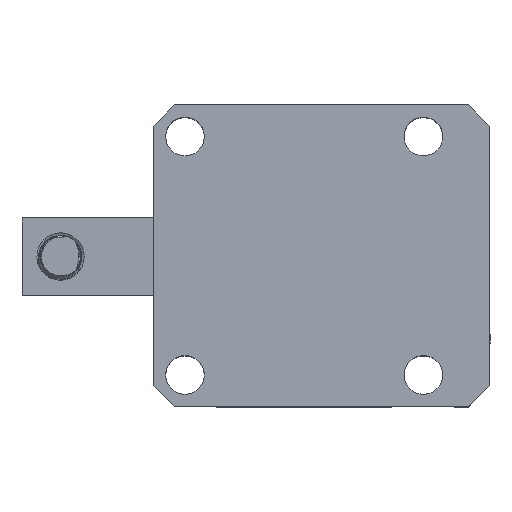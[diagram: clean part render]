
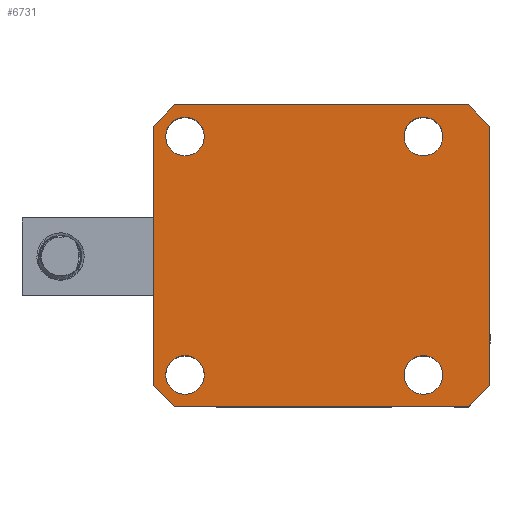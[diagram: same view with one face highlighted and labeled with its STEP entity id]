
A CAD part, top view. The second image highlights one B-rep face of the part: STEP entity #6731.
In plain terms, the highlighted planar face has unit normal (0, 0, 1).
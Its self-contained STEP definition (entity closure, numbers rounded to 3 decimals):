
#428=FACE_BOUND('',#998,.T.);
#429=FACE_BOUND('',#999,.T.);
#430=FACE_BOUND('',#1000,.T.);
#431=FACE_BOUND('',#1001,.T.);
#478=PLANE('',#7387);
#642=FACE_OUTER_BOUND('',#997,.T.);
#997=EDGE_LOOP('',(#5071,#5072,#5073,#5074,#5075,#5076,#5077,#5078));
#998=EDGE_LOOP('',(#5079));
#999=EDGE_LOOP('',(#5080));
#1000=EDGE_LOOP('',(#5081));
#1001=EDGE_LOOP('',(#5082));
#1881=LINE('',#11589,#2314);
#1882=LINE('',#11591,#2315);
#1883=LINE('',#11593,#2316);
#1884=LINE('',#11595,#2317);
#1885=LINE('',#11597,#2318);
#1886=LINE('',#11599,#2319);
#1887=LINE('',#11601,#2320);
#1888=LINE('',#11602,#2321);
#2314=VECTOR('',#8028,1000.);
#2315=VECTOR('',#8029,1000.);
#2316=VECTOR('',#8030,1000.);
#2317=VECTOR('',#8031,1000.);
#2318=VECTOR('',#8032,1000.);
#2319=VECTOR('',#8033,1000.);
#2320=VECTOR('',#8034,1000.);
#2321=VECTOR('',#8035,1000.);
#2717=CIRCLE('',#7349,5.5);
#2719=CIRCLE('',#7352,5.5);
#2721=CIRCLE('',#7355,5.5);
#2723=CIRCLE('',#7358,5.5);
#2930=VERTEX_POINT('',#10750);
#2932=VERTEX_POINT('',#10756);
#2934=VERTEX_POINT('',#10762);
#2936=VERTEX_POINT('',#10768);
#2980=VERTEX_POINT('',#11587);
#2981=VERTEX_POINT('',#11588);
#2982=VERTEX_POINT('',#11590);
#2983=VERTEX_POINT('',#11592);
#2984=VERTEX_POINT('',#11594);
#2985=VERTEX_POINT('',#11596);
#2986=VERTEX_POINT('',#11598);
#2987=VERTEX_POINT('',#11600);
#3846=EDGE_CURVE('',#2930,#2930,#2717,.T.);
#3849=EDGE_CURVE('',#2932,#2932,#2719,.T.);
#3852=EDGE_CURVE('',#2934,#2934,#2721,.T.);
#3855=EDGE_CURVE('',#2936,#2936,#2723,.T.);
#3927=EDGE_CURVE('',#2980,#2981,#1881,.T.);
#3928=EDGE_CURVE('',#2981,#2982,#1882,.T.);
#3929=EDGE_CURVE('',#2982,#2983,#1883,.T.);
#3930=EDGE_CURVE('',#2983,#2984,#1884,.T.);
#3931=EDGE_CURVE('',#2984,#2985,#1885,.T.);
#3932=EDGE_CURVE('',#2985,#2986,#1886,.T.);
#3933=EDGE_CURVE('',#2986,#2987,#1887,.T.);
#3934=EDGE_CURVE('',#2987,#2980,#1888,.T.);
#5071=ORIENTED_EDGE('',*,*,#3927,.T.);
#5072=ORIENTED_EDGE('',*,*,#3928,.T.);
#5073=ORIENTED_EDGE('',*,*,#3929,.T.);
#5074=ORIENTED_EDGE('',*,*,#3930,.T.);
#5075=ORIENTED_EDGE('',*,*,#3931,.T.);
#5076=ORIENTED_EDGE('',*,*,#3932,.T.);
#5077=ORIENTED_EDGE('',*,*,#3933,.T.);
#5078=ORIENTED_EDGE('',*,*,#3934,.T.);
#5079=ORIENTED_EDGE('',*,*,#3846,.T.);
#5080=ORIENTED_EDGE('',*,*,#3849,.T.);
#5081=ORIENTED_EDGE('',*,*,#3852,.T.);
#5082=ORIENTED_EDGE('',*,*,#3855,.T.);
#6731=ADVANCED_FACE('',(#642,#428,#429,#430,#431),#478,.T.);
#7349=AXIS2_PLACEMENT_3D('',#10752,#7936,#7937);
#7352=AXIS2_PLACEMENT_3D('',#10758,#7943,#7944);
#7355=AXIS2_PLACEMENT_3D('',#10764,#7950,#7951);
#7358=AXIS2_PLACEMENT_3D('',#10770,#7957,#7958);
#7387=AXIS2_PLACEMENT_3D('',#11586,#8026,#8027);
#7936=DIRECTION('center_axis',(0.,0.,
-1.));
#7937=DIRECTION('ref_axis',(0.,-1.,0.));
#7943=DIRECTION('center_axis',(0.,0.,-1.));
#7944=DIRECTION('ref_axis',(0.,-1.,0.));
#7950=DIRECTION('center_axis',(0.,0.,-1.));
#7951=DIRECTION('ref_axis',(0.,-1.,0.));
#7957=DIRECTION('center_axis',(0.,0.,
-1.));
#7958=DIRECTION('ref_axis',(0.,-1.,0.));
#8026=DIRECTION('center_axis',(0.,0.,1.));
#8027=DIRECTION('ref_axis',(1.,0.,0.));
#8028=DIRECTION('',(-1.,0.,0.));
#8029=DIRECTION('',(-0.707,-0.707,0.));
#8030=DIRECTION('',(0.,-1.,0.));
#8031=DIRECTION('',(0.707,-0.707,0.));
#8032=DIRECTION('',(1.,0.,0.));
#8033=DIRECTION('',(0.707,0.707,0.));
#8034=DIRECTION('',(0.,1.,0.));
#8035=DIRECTION('',(-0.707,0.707,0.));
#10750=CARTESIAN_POINT('',(-34.,39.5,47.5));
#10752=CARTESIAN_POINT('Origin',(-34.,34.,47.5));
#10756=CARTESIAN_POINT('',(34.,39.5,47.5));
#10758=CARTESIAN_POINT('Origin',(34.,34.,47.5));
#10762=CARTESIAN_POINT('',(34.,-28.5,47.5));
#10764=CARTESIAN_POINT('Origin',(34.,-34.,47.5));
#10768=CARTESIAN_POINT('',(-34.,-28.5,47.5));
#10770=CARTESIAN_POINT('Origin',(-34.,-34.,47.5));
#11586=CARTESIAN_POINT('Origin',(-43.,-43.,47.5));
#11587=CARTESIAN_POINT('',(47.,43.,47.5));
#11588=CARTESIAN_POINT('',(-37.,43.,47.5));
#11589=CARTESIAN_POINT('',(-43.,43.,47.5));
#11590=CARTESIAN_POINT('',(-43.,37.,47.5));
#11591=CARTESIAN_POINT('',(-37.,43.,47.5));
#11592=CARTESIAN_POINT('',(-43.,-37.,47.5));
#11593=CARTESIAN_POINT('',(-43.,-43.,47.5));
#11594=CARTESIAN_POINT('',(-37.,-43.,47.5));
#11595=CARTESIAN_POINT('',(-43.,-37.,47.5));
#11596=CARTESIAN_POINT('',(47.,-43.,47.5));
#11597=CARTESIAN_POINT('',(-43.,-43.,47.5));
#11598=CARTESIAN_POINT('',(53.,-37.,47.5));
#11599=CARTESIAN_POINT('',(47.,-43.,47.5));
#11600=CARTESIAN_POINT('',(53.,37.,47.5));
#11601=CARTESIAN_POINT('',(53.,-43.,47.5));
#11602=CARTESIAN_POINT('',(53.,37.,47.5));
